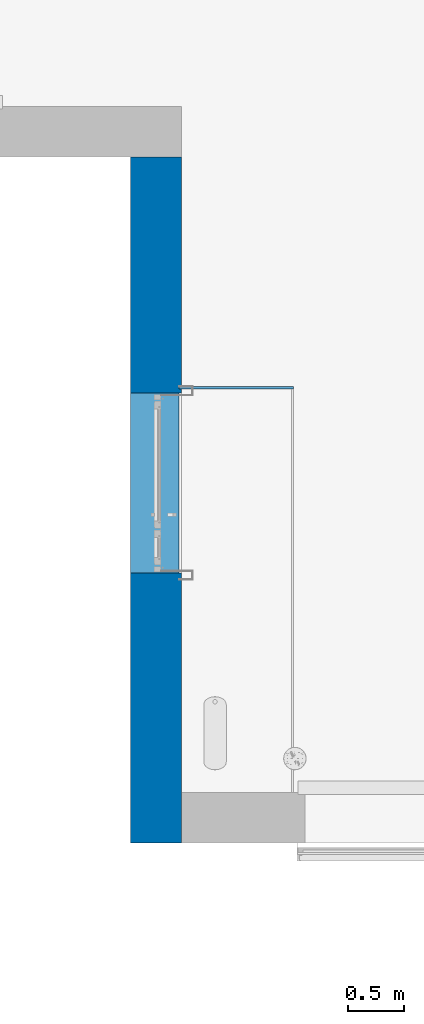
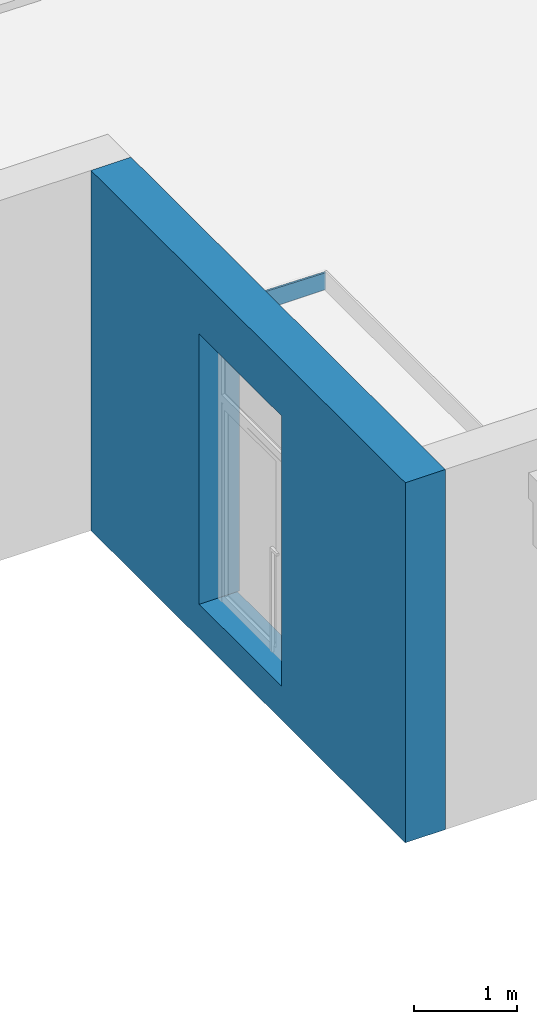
# One storey, part 25 of 77: 2 walls, 3 openings.
"""IFC2X3 building model written with IfcOpenShell, lengths in millimetres."""

from ifc_helpers import new_model, entity, si_unit, converted_unit, derived_unit, direction, frame, frame_2d, origin, place, context, subcontext, project, spatial, rectangle, extrude, clip, halfspace, faceted_brep, material, layer, layer_set, layer_usage, type_object, element, save


model = new_model("IFC2X3")

# Units and contexts
model_context = context("Model", 3, precision=0.01, world=origin(), true_north=direction((6.12303176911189e-17, 1.0)))
body_context = subcontext(model_context, "Body", "Model", "MODEL_VIEW")
ifc_project = project(units=[si_unit("LENGTHUNIT", "METRE", prefix="MILLI"), si_unit("AREAUNIT", "SQUARE_METRE"), si_unit("VOLUMEUNIT", "CUBIC_METRE"), converted_unit("PLANEANGLEUNIT", "DEGREE", entity("IfcRatioMeasure", 0.0174532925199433), si_unit("PLANEANGLEUNIT", "RADIAN"), dimensions=[0, 0, 0, 0, 0, 0, 0]), si_unit("MASSUNIT", "GRAM", prefix="KILO"), derived_unit("MASSDENSITYUNIT", [(si_unit("MASSUNIT", "GRAM", prefix="KILO"), 1), (si_unit("LENGTHUNIT", "METRE"), -3)]), si_unit("TIMEUNIT", "SECOND"), si_unit("FREQUENCYUNIT", "HERTZ"), si_unit("THERMODYNAMICTEMPERATUREUNIT", "DEGREE_CELSIUS"), derived_unit("THERMALTRANSMITTANCEUNIT", [(si_unit("MASSUNIT", "GRAM", prefix="KILO"), 1), (si_unit("THERMODYNAMICTEMPERATUREUNIT", "KELVIN"), -1), (si_unit("TIMEUNIT", "SECOND"), -3)]), derived_unit("VOLUMETRICFLOWRATEUNIT", [(si_unit("LENGTHUNIT", "METRE"), 3), (si_unit("TIMEUNIT", "SECOND"), -1)]), si_unit("ELECTRICCURRENTUNIT", "AMPERE"), si_unit("ELECTRICVOLTAGEUNIT", "VOLT"), si_unit("POWERUNIT", "WATT"), si_unit("FORCEUNIT", "NEWTON", prefix="KILO"), si_unit("ILLUMINANCEUNIT", "LUX"), si_unit("LUMINOUSFLUXUNIT", "LUMEN"), si_unit("LUMINOUSINTENSITYUNIT", "CANDELA"), derived_unit("USERDEFINED", [(si_unit("MASSUNIT", "GRAM", prefix="KILO"), -1), (si_unit("LENGTHUNIT", "METRE"), -2), (si_unit("TIMEUNIT", "SECOND"), 3), (si_unit("LUMINOUSFLUXUNIT", "LUMEN"), 1)]), derived_unit("LINEARVELOCITYUNIT", [(si_unit("LENGTHUNIT", "METRE"), 1), (si_unit("TIMEUNIT", "SECOND"), -1)]), si_unit("PRESSUREUNIT", "PASCAL"), derived_unit("USERDEFINED", [(si_unit("LENGTHUNIT", "METRE"), -2), (si_unit("MASSUNIT", "GRAM", prefix="KILO"), 1), (si_unit("TIMEUNIT", "SECOND"), -2)])], contexts=[model_context])

# Site, building, storey
site_placement = place(None, origin())
site = spatial("IfcSite", under=ifc_project, at=site_placement, Name="Default", CompositionType="ELEMENT")
building_placement = place(site_placement, origin())
building = spatial("IfcBuilding", under=site, at=building_placement, CompositionType="ELEMENT")
storey_placement = place(building_placement, origin())
storey = spatial("IfcBuildingStorey", under=building, at=storey_placement, Name="1. KORRUS", CompositionType="ELEMENT", Elevation=0.0)

# Wall, openings
ifc_material_1 = material(Name="RECKLI 1 173 THUR by Polantis 2016-toon4")
ifc_layer_1 = layer(ifc_material_1, 100.0)
ifc_material_2 = material(Name="Soojusisolatsioon EPS")
ifc_layer_2 = layer(ifc_material_2, 200.0)
ifc_material_3 = material(Name="r/b")
ifc_layer_3 = layer(ifc_material_3, 150.0)
ifc_layer_set_1 = layer_set([ifc_layer_1, ifc_layer_2, ifc_layer_3], Name="Basic Wall:VS-1_toon-a")
ifc_layer_usage_1 = layer_usage(ifc_layer_set_1, "AXIS2", "NEGATIVE", 225.0)
wall_type_1 = type_object("IfcWallType", Name="Basic Wall:VS-1_toon-a", PredefinedType="STANDARD", material=ifc_layer_set_1)
wall_1_placement = place(storey_placement, frame((9425.0, 27600.0, -400.0), z_axis=(0.0, 0.0, 1.0), x_axis=(0.0, -1.0, 0.0)))
wall_1 = element("IfcWallStandardCase", 1, at=wall_1_placement, inside=storey, type_object=wall_type_1, material=ifc_layer_usage_1, Name="Basic Wall:VS-1_toon-a", ObjectType="Basic Wall:VS-1_toon-a", context=body_context, shape_type="SweptSolid", body=[
    extrude(rectangle(XDim=6099.94821928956, YDim=449.999999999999, at=frame_2d((3049.97410964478, 0.0), x_axis=(-1.0, 0.0))), origin(), (0.0, 0.0, 1.0), 4265.0),
])
opening_1_placement = place(wall_1_placement, origin())
element("IfcOpeningElement", 2, at=opening_1_placement, cuts=wall_1, Name="Basic Wall:VS-1_toon-a", ObjectType="Recess", context=body_context, shape_type="SweptSolid", body=[
    extrude(rectangle(XDim=2000.0, YDim=139.999999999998, at=frame_2d((2.1600499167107e-12, 0.0), x_axis=(0.0, 1.0))), frame((3870.0, -565.0, 1400.0), z_axis=(0.0, 1.0, 0.0), x_axis=(1.0, 0.0, 0.0)), (0.0, 0.0, 1.0), 340.000000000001),
])
opening_2_placement = place(wall_1_placement, origin())
element("IfcOpeningElement", 3, at=opening_2_placement, cuts=wall_1, Name="Basic Wall:VS-1_toon-a", ObjectType="Opening", context=body_context, shape_type="Brep", body=[
    faceted_brep([(-430.0, -9855.0, 400.0), (-430.0, -9855.0, 0.0), (-450.0, -9875.0, 0.0), (-450.0, -9875.0, 400.0), (4310.0, -9855.0, 400.0), (4310.0, -9875.0, 400.0), (4310.0, -9875.0, 0.0), (4310.0, -9855.0, 0.0)], [[[0, 1, 2, 3]], [[4, 5, 6, 7]], [[1, 0, 4, 7]], [[2, 1, 7, 6]], [[3, 2, 6, 5]], [[0, 3, 5, 4]]]),
    faceted_brep([(-430.0, -9855.0, 400.0), (-450.0, -9875.0, 400.0), (-450.0, -9875.0, 0.0), (-430.0, -9855.0, 0.0), (-430.0, -5515.0, 400.0), (-430.0, -5515.0, 0.0), (-450.0, -5515.0, 0.0), (-450.0, -5515.0, 400.0)], [[[0, 1, 2, 3]], [[4, 5, 6, 7]], [[1, 0, 4, 7]], [[2, 1, 7, 6]], [[3, 2, 6, 5]], [[0, 3, 5, 4]]]),
    faceted_brep([(-430.0, 205.0, 400.0), (-450.0, 225.0, 400.0), (-450.0, 225.0, 0.0), (-430.0, 205.0, 0.0), (5669.94821928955, 205.0, 400.0), (5669.94821928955, 205.0, 0.0), (5649.94821928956, 225.0, 0.0), (5649.94821928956, 225.0, 400.0)], [[[0, 1, 2, 3]], [[4, 5, 6, 7]], [[1, 0, 4, 7]], [[2, 1, 7, 6]], [[3, 2, 6, 5]], [[0, 3, 5, 4]]]),
    faceted_brep([(5669.94821928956, 4925.0, 400.0), (5649.94821928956, 4925.0, 400.0), (5649.94821928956, 4925.0, 0.0), (5669.94821928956, 4925.0, 0.0), (5669.94821928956, 5455.0, 400.0), (5669.94821928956, 5455.0, 0.0), (5649.94821928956, 5455.0, 0.0), (5649.94821928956, 5455.0, 400.0)], [[[0, 1, 2, 3]], [[4, 5, 6, 7]], [[1, 0, 4, 7]], [[2, 1, 7, 6]], [[3, 2, 6, 5]], [[0, 3, 5, 4]]]),
    faceted_brep([(5669.94821928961, 30505.0, 400.0), (5649.94821928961, 30525.0, 400.0), (5649.94821928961, 30525.0, 0.0), (5669.94821928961, 30505.0, 0.0), (11810.0, 30505.0, 400.0), (11810.0, 30505.0, 0.0), (11810.0, 30525.0, 0.0), (11810.0, 30525.0, 400.0)], [[[0, 1, 2, 3]], [[4, 5, 6, 7]], [[1, 0, 4, 7]], [[2, 1, 7, 6]], [[3, 2, 6, 5]], [[0, 3, 5, 4]]]),
    faceted_brep([(28030.0, 30505.0, 400.0), (28050.0, 30525.0, 400.0), (28050.0, 30525.0, 0.0), (28030.0, 30505.0, 0.0), (28030.0, 25375.0, 400.0), (28030.0, 25375.0, 0.0), (28050.0, 25375.0, 0.0), (28050.0, 25375.0, 400.0)], [[[0, 1, 2, 3]], [[4, 5, 6, 7]], [[1, 0, 4, 7]], [[2, 1, 7, 6]], [[3, 2, 6, 5]], [[0, 3, 5, 4]]]),
    faceted_brep([(28030.0, 1975.0, 400.0), (28050.0, 1975.0, 400.0), (28050.0, 1975.0, 0.0), (28030.0, 1975.0, 0.0), (28030.0, -1810.0, 400.0), (28030.0, -1810.0, 0.0), (28050.0, -1810.0, 0.0), (28050.0, -1810.0, 400.0)], [[[0, 1, 2, 3]], [[4, 5, 6, 7]], [[1, 0, 4, 7]], [[2, 1, 7, 6]], [[3, 2, 6, 5]], [[0, 3, 5, 4]]]),
    faceted_brep([(14840.0, 30505.0, 400.0), (14840.0, 30525.0, 400.0), (14840.0, 30525.0, 0.0), (14840.0, 30505.0, 0.0), (18956.67, 30505.0, 400.0), (18956.67, 30505.0, 0.0), (18956.67, 30525.0, 0.0), (18956.67, 30525.0, 400.0)], [[[0, 1, 2, 3]], [[4, 5, 6, 7]], [[1, 0, 4, 7]], [[2, 1, 7, 6]], [[3, 2, 6, 5]], [[0, 3, 5, 4]]]),
    faceted_brep([(28030.0, 21775.0, 400.0), (28050.0, 21775.0, 400.0), (28050.0, 21775.0, 0.0), (28030.0, 21775.0, 0.0), (28030.0, 19375.0, 400.0), (28030.0, 19375.0, 0.0), (28050.0, 19375.0, 0.0), (28050.0, 19375.0, 400.0)], [[[0, 1, 2, 3]], [[4, 5, 6, 7]], [[1, 0, 4, 7]], [[2, 1, 7, 6]], [[3, 2, 6, 5]], [[0, 3, 5, 4]]]),
    faceted_brep([(28030.0, -5634.96917624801, 400.0), (28050.0, -5634.96917624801, 400.0), (28050.0, -5634.96917624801, 0.0), (28030.0, -5634.96917624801, 0.0), (28030.0, -8119.969176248, 400.0), (28030.0, -8119.969176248, 0.0), (28050.0, -8119.969176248, 0.0), (28050.0, -8119.969176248, 400.0)], [[[0, 1, 2, 3]], [[4, 5, 6, 7]], [[1, 0, 4, 7]], [[2, 1, 7, 6]], [[3, 2, 6, 5]], [[0, 3, 5, 4]]]),
    faceted_brep([(28030.0, 6575.0, 400.0), (28050.0, 6575.0, 400.0), (28050.0, 6575.0, 0.0), (28030.0, 6575.0, 0.0), (28030.0, 5575.0, 400.0), (28030.0, 5575.0, 0.0), (28050.0, 5575.0, 0.0), (28050.0, 5575.0, 400.0)], [[[0, 1, 2, 3]], [[4, 5, 6, 7]], [[1, 0, 4, 7]], [[2, 1, 7, 6]], [[3, 2, 6, 5]], [[0, 3, 5, 4]]]),
    faceted_brep([(28030.0, 11175.0316629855, 400.0), (28050.0, 11175.0316629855, 400.0), (28050.0, 11175.0316629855, 0.0), (28030.0, 11175.0316629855, 0.0), (28030.0, 10175.0, 400.0), (28030.0, 10175.0, 0.0), (28050.0, 10175.0, 0.0), (28050.0, 10175.0, 400.0)], [[[0, 1, 2, 3]], [[4, 5, 6, 7]], [[1, 0, 4, 7]], [[2, 1, 7, 6]], [[3, 2, 6, 5]], [[0, 3, 5, 4]]]),
    faceted_brep([(28030.0, 15775.0316629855, 400.0), (28050.0, 15775.0316629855, 400.0), (28050.0, 15775.0316629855, 0.0), (28030.0, 15775.0316629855, 0.0), (28030.0, 14775.0, 400.0), (28030.0, 14775.0, 0.0), (28050.0, 14775.0, 0.0), (28050.0, 14775.0, 400.0)], [[[0, 1, 2, 3]], [[4, 5, 6, 7]], [[1, 0, 4, 7]], [[2, 1, 7, 6]], [[3, 2, 6, 5]], [[0, 3, 5, 4]]]),
    faceted_brep([(23185.0, 30505.0, 400.0), (23185.0, 30525.0, 400.0), (23185.0, 30525.0, 0.0), (23185.0, 30505.0, 0.0), (28030.0, 30505.0, 400.0), (28030.0, 30505.0, 0.0), (28050.0, 30525.0, 0.0), (28050.0, 30525.0, 400.0)], [[[0, 1, 2, 3]], [[4, 5, 6, 7]], [[1, 0, 4, 7]], [[2, 1, 7, 6]], [[3, 2, 6, 5]], [[0, 3, 5, 4]]]),
    faceted_brep([(18956.67, 30505.0, 400.0), (18956.67, 30525.0, 400.0), (18956.67, 30525.0, 0.0), (18956.67, 30505.0, 0.0), (23185.0, 30505.0, 400.0), (23185.0, 30505.0, 0.0), (23185.0, 30525.0, 0.0), (23185.0, 30525.0, 400.0)], [[[0, 1, 2, 3]], [[4, 5, 6, 7]], [[1, 0, 4, 7]], [[2, 1, 7, 6]], [[3, 2, 6, 5]], [[0, 3, 5, 4]]]),
    faceted_brep([(11810.0, 30505.0, 400.0), (11810.0, 30525.0, 400.0), (11810.0, 30525.0, 0.0), (11810.0, 30505.0, 0.0), (14840.0, 30505.0, 400.0), (14840.0, 30505.0, 0.0), (14840.0, 30525.0, 0.0), (14840.0, 30525.0, 400.0)], [[[0, 1, 2, 3]], [[4, 5, 6, 7]], [[1, 0, 4, 7]], [[2, 1, 7, 6]], [[3, 2, 6, 5]], [[0, 3, 5, 4]]]),
    faceted_brep([(5669.9482192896, 24545.1035702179, 400.0), (5649.9482192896, 24545.1035702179, 400.0), (5649.9482192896, 24545.1035702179, 0.0), (5669.9482192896, 24545.1035702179, 0.0), (5669.94821928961, 30505.0, 400.0), (5669.94821928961, 30505.0, 0.0), (5649.94821928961, 30525.0, 0.0), (5649.94821928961, 30525.0, 400.0)], [[[0, 1, 2, 3]], [[4, 5, 6, 7]], [[1, 0, 4, 7]], [[2, 1, 7, 6]], [[3, 2, 6, 5]], [[0, 3, 5, 4]]]),
    faceted_brep([(5669.94821928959, 19238.2161487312, 400.0), (5649.94821928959, 19238.2161487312, 400.0), (5649.94821928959, 19238.2161487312, 0.0), (5669.94821928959, 19238.2161487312, 0.0), (5669.9482192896, 24545.1035702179, 400.0), (5669.9482192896, 24545.1035702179, 0.0), (5649.9482192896, 24545.1035702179, 0.0), (5649.9482192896, 24545.1035702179, 400.0)], [[[0, 1, 2, 3]], [[4, 5, 6, 7]], [[1, 0, 4, 7]], [[2, 1, 7, 6]], [[3, 2, 6, 5]], [[0, 3, 5, 4]]]),
    faceted_brep([(28030.0, -1810.0, 400.0), (28050.0, -1810.0, 400.0), (28050.0, -1810.0, 0.0), (28030.0, -1810.0, 0.0), (28030.0, -5634.96917624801, 400.0), (28030.0, -5634.96917624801, 0.0), (28050.0, -5634.96917624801, 0.0), (28050.0, -5634.96917624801, 400.0)], [[[0, 1, 2, 3]], [[4, 5, 6, 7]], [[1, 0, 4, 7]], [[2, 1, 7, 6]], [[3, 2, 6, 5]], [[0, 3, 5, 4]]]),
    faceted_brep([(5669.94821928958, 12660.0, 400.0), (5649.94821928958, 12660.0, 400.0), (5649.94821928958, 12660.0, 0.0), (5669.94821928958, 12660.0, 0.0), (5669.94821928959, 19238.2161487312, 400.0), (5669.94821928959, 19238.2161487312, 0.0), (5649.94821928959, 19238.2161487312, 0.0), (5649.94821928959, 19238.2161487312, 400.0)], [[[0, 1, 2, 3]], [[4, 5, 6, 7]], [[1, 0, 4, 7]], [[2, 1, 7, 6]], [[3, 2, 6, 5]], [[0, 3, 5, 4]]]),
    faceted_brep([(5669.94821928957, 8828.35289101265, 400.0), (5649.94821928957, 8828.35289101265, 400.0), (5649.94821928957, 8828.35289101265, 0.0), (5669.94821928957, 8828.35289101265, 0.0), (5669.94821928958, 12660.0, 400.0), (5669.94821928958, 12660.0, 0.0), (5649.94821928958, 12660.0, 0.0), (5649.94821928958, 12660.0, 400.0)], [[[0, 1, 2, 3]], [[4, 5, 6, 7]], [[1, 0, 4, 7]], [[2, 1, 7, 6]], [[3, 2, 6, 5]], [[0, 3, 5, 4]]]),
    faceted_brep([(5669.94821928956, 5455.0, 400.0), (5649.94821928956, 5455.0, 400.0), (5649.94821928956, 5455.0, 0.0), (5669.94821928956, 5455.0, 0.0), (5669.94821928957, 8828.35289101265, 400.0), (5669.94821928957, 8828.35289101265, 0.0), (5649.94821928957, 8828.35289101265, 0.0), (5649.94821928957, 8828.35289101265, 400.0)], [[[0, 1, 2, 3]], [[4, 5, 6, 7]], [[1, 0, 4, 7]], [[2, 1, 7, 6]], [[3, 2, 6, 5]], [[0, 3, 5, 4]]]),
    faceted_brep([(-430.0, -5515.0, 400.0), (-450.0, -5515.0, 400.0), (-450.0, -5515.0, 0.0), (-430.0, -5515.0, 0.0), (-430.0, 205.0, 400.0), (-430.0, 205.0, 0.0), (-450.0, 225.0, 0.0), (-450.0, 225.0, 400.0)], [[[0, 1, 2, 3]], [[4, 5, 6, 7]], [[1, 0, 4, 7]], [[2, 1, 7, 6]], [[3, 2, 6, 5]], [[0, 3, 5, 4]]]),
    faceted_brep([(4310.0, -9855.0, 400.0), (4310.0, -9855.0, 0.0), (4310.0, -9875.0, 0.0), (4310.0, -9875.0, 400.0), (9859.9993027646, -9855.0, 400.0), (9859.9993027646, -9875.0, 400.0), (9859.9993027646, -9875.0, 0.0), (9859.9993027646, -9855.0, 0.0)], [[[0, 1, 2, 3]], [[4, 5, 6, 7]], [[1, 0, 4, 7]], [[2, 1, 7, 6]], [[3, 2, 6, 5]], [[0, 3, 5, 4]]]),
    faceted_brep([(9859.9993027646, -9855.0, 400.0), (9859.9993027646, -9855.0, 0.0), (9859.9993027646, -9875.0, 0.0), (9859.9993027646, -9875.0, 400.0), (14800.0, -9855.0, 400.0), (14800.0, -9875.0, 400.0), (14800.0, -9875.0, 0.0), (14800.0, -9855.0, 0.0)], [[[0, 1, 2, 3]], [[4, 5, 6, 7]], [[1, 0, 4, 7]], [[2, 1, 7, 6]], [[3, 2, 6, 5]], [[0, 3, 5, 4]]]),
    faceted_brep([(5669.94821928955, 205.0, 400.0), (5649.94821928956, 225.0, 400.0), (5649.94821928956, 225.0, 0.0), (5669.94821928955, 205.0, 0.0), (5669.94821928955, 1325.0, 400.0), (5669.94821928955, 1325.0, 0.0), (5649.94821928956, 1325.0, 0.0), (5649.94821928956, 1325.0, 400.0)], [[[0, 1, 2, 3]], [[4, 5, 6, 7]], [[1, 0, 4, 7]], [[2, 1, 7, 6]], [[3, 2, 6, 5]], [[0, 3, 5, 4]]]),
])
opening_3_placement = place(wall_1_placement, frame((2100.0, -225.0, 400.0)))
element("IfcOpeningElement", 4, at=opening_3_placement, cuts=wall_1, Name="Door_Fuego_Light_EI30_2_Leaf_Type_10_Outward_Opening:VU16-1_1600x3200 EI60:1", ObjectType="Opening", context=body_context, shape_type="SweptSolid", body=[
    extrude(rectangle(XDim=3200.00000000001, YDim=1599.99999999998, at=frame_2d((1600.00000000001, 799.999999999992), x_axis=(-1.0, 0.0))), frame((0.0, 0.0, 0.0), z_axis=(0.0, 1.0, 0.0), x_axis=(0.0, 0.0, 1.0)), (0.0, 0.0, 1.0), 450.0),
])

# Wall
ifc_material_4 = material(Name="Must-al-komposiitplaat")
ifc_layer_4 = layer(ifc_material_4, 4.0)
ifc_material_5 = material(Name="Õhkvahe- hor roovid")
ifc_layer_5 = layer(ifc_material_5, 18.0)
ifc_layer_set_2 = layer_set([ifc_layer_4, ifc_layer_5], Name="Basic Wall:varikatuse serv20+4")
ifc_layer_usage_2 = layer_usage(ifc_layer_set_2, "AXIS2", "NEGATIVE", 11.0)
wall_type_2 = type_object("IfcWallType", Name="Basic Wall:varikatuse serv20+4", PredefinedType="STANDARD", material=ifc_layer_set_2)
wall_2_placement = place(storey_placement, frame((9630.0, 25548.9958752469, 3200.0)))
element("IfcWallStandardCase", 5, at=wall_2_placement, inside=storey, type_object=wall_type_2, material=ifc_layer_usage_2, Name="Basic Wall:varikatuse serv20+4", ObjectType="Basic Wall:varikatuse serv20+4", context=body_context, shape_type="Clipping", body=[
    clip(extrude(rectangle(XDim=1016.0, YDim=22.0000000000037, at=frame_2d((508.000000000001, 3.46389583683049e-14), x_axis=(-1.0, 0.0))), origin(), (0.0, 0.0, 1.0), 216.913790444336), halfspace(frame((0.0, -11.0, 216.913790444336), z_axis=(0.0165798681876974, 0.0, 0.999862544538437), x_axis=(0.0, 1.0, 0.0)), False)),
])

save(model, "model.ifc")
